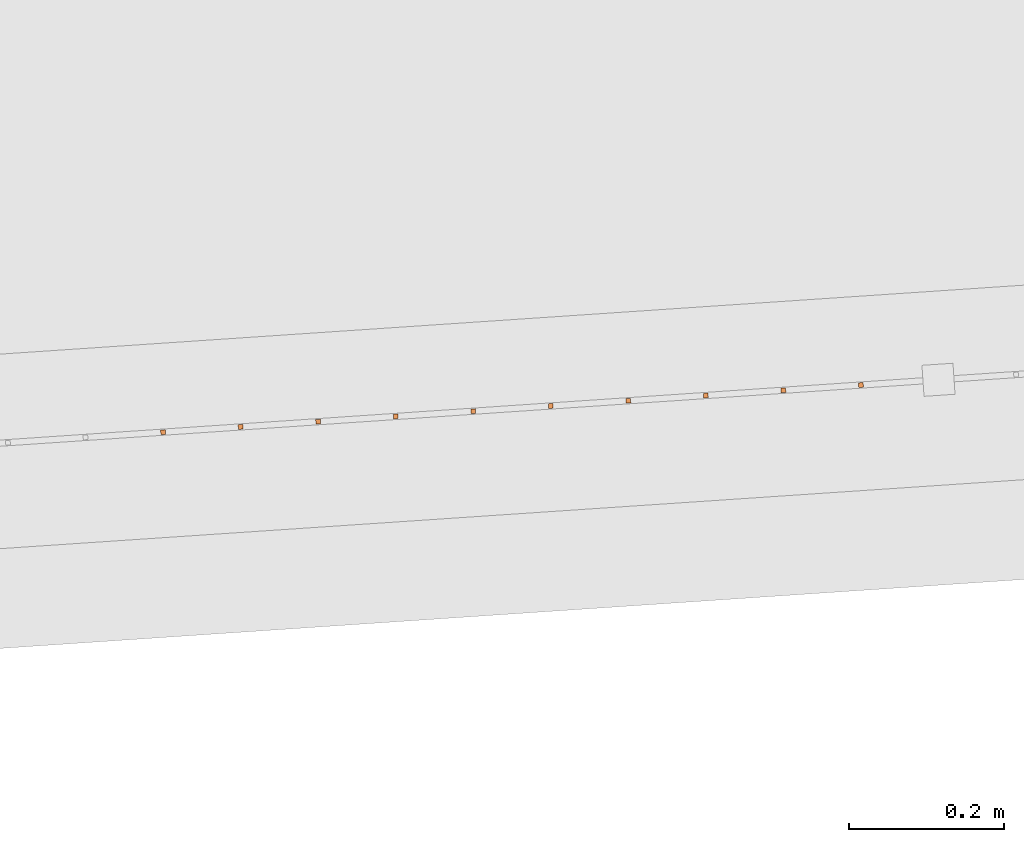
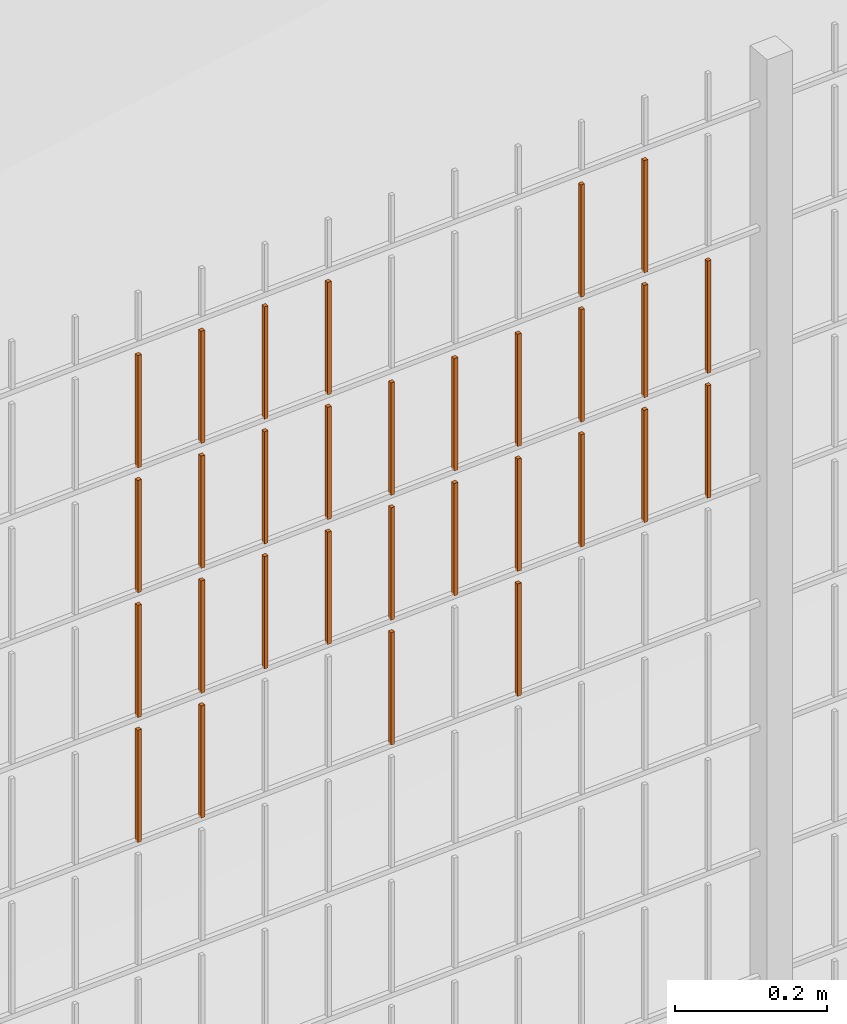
# One storey, part 139 of 1809: 30 proxies, 1 element without a shape of its own.
"""IFC2X3 building model written with IfcOpenShell, lengths in millimetres."""

from ifc_helpers import new_model, entity, si_unit, converted_unit, derived_unit, money_unit, direction, frame, origin_with_axes, place, context, subcontext, project, spatial, faceted_brep, source, transform, mapped, material, type_object, element, aggregate, save


model = new_model("IFC2X3")

# Units and contexts
model_context = context("Model", 3, precision=0.01, world=origin_with_axes(), true_north=direction((0.0, 1.0)))
body_context = subcontext(model_context, "Body", "Model", "MODEL_VIEW")
ifc_project = project(units=[si_unit("LENGTHUNIT", "METRE", prefix="MILLI"), si_unit("AREAUNIT", "SQUARE_METRE"), si_unit("VOLUMEUNIT", "CUBIC_METRE"), converted_unit("PLANEANGLEUNIT", "DEGREE", entity("IfcPlaneAngleMeasure", 0.0174532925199), si_unit("PLANEANGLEUNIT", "RADIAN"), dimensions=[0, 0, 0, 0, 0, 0, 0]), si_unit("SOLIDANGLEUNIT", "STERADIAN"), money_unit("EUR"), converted_unit("TIMEUNIT", "Year", entity("IfcTimeMeasure", 31556926.0), si_unit("TIMEUNIT", "SECOND"), dimensions=[0, 0, 1, 0, 0, 0, 0]), si_unit("MASSUNIT", "GRAM", prefix="KILO"), si_unit("THERMODYNAMICTEMPERATUREUNIT", "DEGREE_CELSIUS"), si_unit("LUMINOUSINTENSITYUNIT", "LUMEN"), si_unit("ENERGYUNIT", "JOULE", prefix="MEGA"), derived_unit("THERMALCONDUCTANCEUNIT", [(si_unit("POWERUNIT", "WATT"), 1), (si_unit("LENGTHUNIT", "METRE"), -1), (si_unit("THERMODYNAMICTEMPERATUREUNIT", "KELVIN"), -1)]), derived_unit("SPECIFICHEATCAPACITYUNIT", [(si_unit("ENERGYUNIT", "JOULE"), 1), (si_unit("MASSUNIT", "GRAM", prefix="KILO"), -1), (si_unit("THERMODYNAMICTEMPERATUREUNIT", "KELVIN"), -1)]), derived_unit("MASSDENSITYUNIT", [(si_unit("MASSUNIT", "GRAM", prefix="KILO"), 1), (si_unit("VOLUMEUNIT", "CUBIC_METRE"), -1)])], contexts=[model_context])

# Site, building, storey
site_placement = place(None, origin_with_axes())
site = spatial("IfcSite", under=ifc_project, at=site_placement, Name="Politse- ja Piirivalveameti ning Päästeameti ühishoone", CompositionType="ELEMENT")
building_placement = place(site_placement, origin_with_axes())
building = spatial("IfcBuilding", under=site, at=building_placement, Name="Politse- ja Piirivalveameti ning Päästeameti ühishoone", CompositionType="ELEMENT")
storey_placement = place(building_placement, origin_with_axes())
storey = spatial("IfcBuildingStorey", under=building, at=storey_placement, Name="Esimene korrus", CompositionType="ELEMENT", Elevation=0.0)

# Proxies
building_element_proxy_type_1 = type_object("IfcBuildingElementProxyType", Name="Railing Type", PredefinedType="NOTDEFINED")
proxy_1_placement = place(storey_placement, frame((89252.001212, -29183.4766571, 203.661247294), z_axis=(0.0, 0.0, 1.0), x_axis=(1.0, 0.0, 0.0)))
proxy_1 = element("IfcBuildingElementProxy", 1, at=proxy_1_placement, inside=storey, type_object=building_element_proxy_type_1, Name="PIIRDEAED")
ifc_material = material(Name="ET-03_Raud")
building_element_proxy_type_2 = type_object("IfcBuildingElementProxyType", Name="IfcBuildingElementProxy", PredefinedType="NOTDEFINED")
shared_shape_1 = source(origin_with_axes(), body_context, "Body", "Brep", [
    faceted_brep([(3.0, 3.0, -0.000752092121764), (-3.0, 3.0, -0.000752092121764), (-3.0, 3.0, 179.99926046), (3.0, 3.0, 179.99926046), (3.0, -3.0, 0.000752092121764), (-3.0, -3.0, 0.000752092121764), (-3.0, -3.0, 180.000764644), (3.0, -3.0, 180.000764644)], [[[0, 1, 2, 3]], [[0, 4, 5, 1]], [[1, 5, 6, 2]], [[3, 2, 6, 7]], [[4, 0, 3, 7]], [[5, 4, 7, 6]]]),
])
proxy_2_placement = place(proxy_1_placement, frame((-88125.8799148, -23250.3453748, 1205.09111679), z_axis=(0.0, 0.0, 1.0), x_axis=(1.0, 0.0, 0.0)))
proxy_2 = element("IfcBuildingElementProxy", 2, at=proxy_2_placement, type_object=building_element_proxy_type_2, material=ifc_material, Name="BALUSTER - 001", context=body_context, shape_type="MappedRepresentation", body=[
    mapped(shared_shape_1, transform((0.0, 0.0, 0.0), x_axis=(-0.0673926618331, 0.997726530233, 0.0), y_axis=(-0.997726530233, -0.0673926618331, 0.0), z_axis=(0.0, 0.0, 1.0))),
])
shared_shape_2 = source(origin_with_axes(), body_context, "Body", "Brep", [
    faceted_brep([(3.0, 3.0, -0.000752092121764), (-3.0, 3.0, -0.000752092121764), (-3.0, 3.0, 179.99926046), (3.0, 3.0, 179.99926046), (3.0, -3.0, 0.000752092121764), (-3.0, -3.0, 0.000752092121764), (-3.0, -3.0, 180.000764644), (3.0, -3.0, 180.000764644)], [[[0, 1, 2, 3]], [[0, 4, 5, 1]], [[1, 5, 6, 2]], [[3, 2, 6, 7]], [[4, 0, 3, 7]], [[5, 4, 7, 6]]]),
])
proxy_3_placement = place(proxy_1_placement, frame((-87826.5619557, -23230.1275762, 1805.166326), z_axis=(0.0, 0.0, 1.0), x_axis=(1.0, 0.0, 0.0)))
proxy_3 = element("IfcBuildingElementProxy", 3, at=proxy_3_placement, type_object=building_element_proxy_type_2, material=ifc_material, Name="BALUSTER - 001", context=body_context, shape_type="MappedRepresentation", body=[
    mapped(shared_shape_2, transform((0.0, 0.0, 0.0), x_axis=(-0.0673926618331, 0.997726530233, 0.0), y_axis=(-0.997726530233, -0.0673926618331, 0.0), z_axis=(0.0, 0.0, 1.0))),
])
proxy_4_placement = place(proxy_1_placement, frame((-88125.8799148, -23250.3453748, 1805.09111679), z_axis=(0.0, 0.0, 1.0), x_axis=(1.0, 0.0, 0.0)))
proxy_4 = element("IfcBuildingElementProxy", 4, at=proxy_4_placement, type_object=building_element_proxy_type_2, material=ifc_material, Name="BALUSTER - 001", context=body_context, shape_type="MappedRepresentation", body=[
    mapped(shared_shape_2, transform((0.0, 0.0, 0.0), x_axis=(-0.0673926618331, 0.997726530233, 0.0), y_axis=(-0.997726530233, -0.0673926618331, 0.0), z_axis=(0.0, 0.0, 1.0))),
])
shared_shape_3 = source(origin_with_axes(), body_context, "Body", "Brep", [
    faceted_brep([(3.0, 3.0, -0.000752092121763), (-3.0, 3.0, -0.000752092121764), (-3.0, 3.0, 179.99926046), (3.0, 3.0, 179.99926046), (3.0, -3.0, 0.000752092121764), (-3.0, -3.0, 0.000752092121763), (-3.0, -3.0, 180.000764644), (3.0, -3.0, 180.000764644)], [[[0, 1, 2, 3]], [[0, 4, 5, 1]], [[1, 5, 6, 2]], [[3, 2, 6, 7]], [[4, 0, 3, 7]], [[5, 4, 7, 6]]]),
])
proxy_5_placement = place(proxy_1_placement, frame((-87327.6986906, -23196.4312453, 1805.29167469), z_axis=(0.0, 0.0, 1.0), x_axis=(1.0, 0.0, 0.0)))
proxy_5 = element("IfcBuildingElementProxy", 5, at=proxy_5_placement, type_object=building_element_proxy_type_2, material=ifc_material, Name="BALUSTER - 001", context=body_context, shape_type="MappedRepresentation", body=[
    mapped(shared_shape_3, transform((0.0, 0.0, 0.0), x_axis=(-0.0673926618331, 0.997726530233, 0.0), y_axis=(-0.997726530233, -0.0673926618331, 0.0), z_axis=(0.0, 0.0, 1.0))),
])
shared_shape_4 = source(origin_with_axes(), body_context, "Body", "Brep", [
    faceted_brep([(3.0, 3.0, -0.000752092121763), (-3.0, 3.0, -0.000752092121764), (-3.0, 3.0, 179.99926046), (3.0, 3.0, 179.99926046), (3.0, -3.0, 0.000752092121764), (-3.0, -3.0, 0.000752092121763), (-3.0, -3.0, 180.000764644), (3.0, -3.0, 180.000764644)], [[[0, 1, 2, 3]], [[0, 4, 5, 1]], [[1, 5, 6, 2]], [[3, 2, 6, 7]], [[4, 0, 3, 7]], [[5, 4, 7, 6]]]),
])
proxy_6_placement = place(proxy_1_placement, frame((-87327.6986906, -23196.4312453, 1405.29167469), z_axis=(0.0, 0.0, 1.0), x_axis=(1.0, 0.0, 0.0)))
proxy_6 = element("IfcBuildingElementProxy", 6, at=proxy_6_placement, type_object=building_element_proxy_type_2, material=ifc_material, Name="BALUSTER - 001", context=body_context, shape_type="MappedRepresentation", body=[
    mapped(shared_shape_4, transform((0.0, 0.0, 0.0), x_axis=(-0.0673926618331, 0.997726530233, 0.0), y_axis=(-0.997726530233, -0.0673926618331, 0.0), z_axis=(0.0, 0.0, 1.0))),
])
proxy_7_placement = place(proxy_1_placement, frame((-87327.6986906, -23196.4312453, 1605.29167469), z_axis=(0.0, 0.0, 1.0), x_axis=(1.0, 0.0, 0.0)))
proxy_7 = element("IfcBuildingElementProxy", 7, at=proxy_7_placement, type_object=building_element_proxy_type_2, material=ifc_material, Name="BALUSTER - 001", context=body_context, shape_type="MappedRepresentation", body=[
    mapped(shared_shape_4, transform((0.0, 0.0, 0.0), x_axis=(-0.0673926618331, 0.997726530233, 0.0), y_axis=(-0.997726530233, -0.0673926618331, 0.0), z_axis=(0.0, 0.0, 1.0))),
])
shared_shape_5 = source(origin_with_axes(), body_context, "Body", "Brep", [
    faceted_brep([(3.0, 3.0, -0.000752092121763), (-3.0, 3.0, -0.000752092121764), (-3.0, 3.0, 179.99926046), (3.0, 3.0, 179.99926046), (3.0, -3.0, 0.000752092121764), (-3.0, -3.0, 0.000752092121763), (-3.0, -3.0, 180.000764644), (3.0, -3.0, 180.000764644)], [[[0, 1, 2, 3]], [[0, 4, 5, 1]], [[1, 5, 6, 2]], [[3, 2, 6, 7]], [[4, 0, 3, 7]], [[5, 4, 7, 6]]]),
])
proxy_8_placement = place(proxy_1_placement, frame((-87227.9260376, -23189.6919791, 1405.31674443), z_axis=(0.0, 0.0, 1.0), x_axis=(1.0, 0.0, 0.0)))
proxy_8 = element("IfcBuildingElementProxy", 8, at=proxy_8_placement, type_object=building_element_proxy_type_2, material=ifc_material, Name="BALUSTER - 001", context=body_context, shape_type="MappedRepresentation", body=[
    mapped(shared_shape_5, transform((0.0, 0.0, 0.0), x_axis=(-0.0673926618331, 0.997726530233, 0.0), y_axis=(-0.997726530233, -0.0673926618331, 0.0), z_axis=(0.0, 0.0, 1.0))),
])
proxy_9_placement = place(proxy_1_placement, frame((-87227.9260376, -23189.6919791, 1605.31674443), z_axis=(0.0, 0.0, 1.0), x_axis=(1.0, 0.0, 0.0)))
proxy_9 = element("IfcBuildingElementProxy", 9, at=proxy_9_placement, type_object=building_element_proxy_type_2, material=ifc_material, Name="BALUSTER - 001", context=body_context, shape_type="MappedRepresentation", body=[
    mapped(shared_shape_5, transform((0.0, 0.0, 0.0), x_axis=(-0.0673926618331, 0.997726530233, 0.0), y_axis=(-0.997726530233, -0.0673926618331, 0.0), z_axis=(0.0, 0.0, 1.0))),
])
shared_shape_6 = source(origin_with_axes(), body_context, "Body", "Brep", [
    faceted_brep([(3.0, 3.0, -0.000752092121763), (-3.0, 3.0, -0.000752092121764), (-3.0, 3.0, 179.99926046), (3.0, 3.0, 179.99926046), (3.0, -3.0, 0.000752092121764), (-3.0, -3.0, 0.000752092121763), (-3.0, -3.0, 180.000764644), (3.0, -3.0, 180.000764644)], [[[0, 1, 2, 3]], [[0, 4, 5, 1]], [[1, 5, 6, 2]], [[3, 2, 6, 7]], [[4, 0, 3, 7]], [[5, 4, 7, 6]]]),
])
proxy_10_placement = place(proxy_1_placement, frame((-87427.4713436, -23203.1705115, 1805.26660495), z_axis=(0.0, 0.0, 1.0), x_axis=(1.0, 0.0, 0.0)))
proxy_10 = element("IfcBuildingElementProxy", 10, at=proxy_10_placement, type_object=building_element_proxy_type_2, material=ifc_material, Name="BALUSTER - 001", context=body_context, shape_type="MappedRepresentation", body=[
    mapped(shared_shape_6, transform((0.0, 0.0, 0.0), x_axis=(-0.0673926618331, 0.997726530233, 0.0), y_axis=(-0.997726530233, -0.0673926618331, 0.0), z_axis=(0.0, 0.0, 1.0))),
])
shared_shape_7 = source(origin_with_axes(), body_context, "Body", "Brep", [
    faceted_brep([(3.0, 3.0, -0.000752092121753), (-3.0, 3.0, -0.000752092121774), (-3.0, 3.0, 179.99926046), (3.0, 3.0, 179.99926046), (3.0, -3.0, 0.000752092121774), (-3.0, -3.0, 0.000752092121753), (-3.0, -3.0, 180.000764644), (3.0, -3.0, 180.000764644)], [[[0, 1, 2, 3]], [[0, 4, 5, 1]], [[1, 5, 6, 2]], [[3, 2, 6, 7]], [[4, 0, 3, 7]], [[5, 4, 7, 6]]]),
])
proxy_11_placement = place(proxy_1_placement, frame((-87527.2439966, -23209.9097777, 1205.24153521), z_axis=(0.0, 0.0, 1.0), x_axis=(1.0, 0.0, 0.0)))
proxy_11 = element("IfcBuildingElementProxy", 11, at=proxy_11_placement, type_object=building_element_proxy_type_2, material=ifc_material, Name="BALUSTER - 001", context=body_context, shape_type="MappedRepresentation", body=[
    mapped(shared_shape_7, transform((0.0, 0.0, 0.0), x_axis=(-0.0673926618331, 0.997726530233, 0.0), y_axis=(-0.997726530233, -0.0673926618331, 0.0), z_axis=(0.0, 0.0, 1.0))),
])
shared_shape_8 = source(origin_with_axes(), body_context, "Body", "Brep", [
    faceted_brep([(3.0, 3.0, -0.000752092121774), (-3.0, 3.0, -0.000752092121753), (-3.0, 3.0, 179.99926046), (3.0, 3.0, 179.99926046), (3.0, -3.0, 0.000752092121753), (-3.0, -3.0, 0.000752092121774), (-3.0, -3.0, 180.000764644), (3.0, -3.0, 180.000764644)], [[[0, 1, 2, 3]], [[0, 4, 5, 1]], [[1, 5, 6, 2]], [[3, 2, 6, 7]], [[4, 0, 3, 7]], [[5, 4, 7, 6]]]),
])
proxy_12_placement = place(proxy_1_placement, frame((-87726.7893027, -23223.38831, 1205.19139574), z_axis=(0.0, 0.0, 1.0), x_axis=(1.0, 0.0, 0.0)))
proxy_12 = element("IfcBuildingElementProxy", 12, at=proxy_12_placement, type_object=building_element_proxy_type_2, material=ifc_material, Name="BALUSTER - 001", context=body_context, shape_type="MappedRepresentation", body=[
    mapped(shared_shape_8, transform((0.0, 0.0, 0.0), x_axis=(-0.0673926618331, 0.997726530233, 0.0), y_axis=(-0.997726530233, -0.0673926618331, 0.0), z_axis=(0.0, 0.0, 1.0))),
])
proxy_13_placement = place(proxy_1_placement, frame((-87926.3346087, -23236.8668424, 1805.14125626), z_axis=(0.0, 0.0, 1.0), x_axis=(1.0, 0.0, 0.0)))
proxy_13 = element("IfcBuildingElementProxy", 13, at=proxy_13_placement, type_object=building_element_proxy_type_2, material=ifc_material, Name="BALUSTER - 001", context=body_context, shape_type="MappedRepresentation", body=[
    mapped(shared_shape_8, transform((0.0, 0.0, 0.0), x_axis=(-0.0673926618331, 0.997726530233, 0.0), y_axis=(-0.997726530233, -0.0673926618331, 0.0), z_axis=(0.0, 0.0, 1.0))),
])
shared_shape_9 = source(origin_with_axes(), body_context, "Body", "Brep", [
    faceted_brep([(3.0, 3.0, -0.000752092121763), (-3.0, 3.0, -0.000752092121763), (-3.0, 3.0, 179.99926046), (3.0, 3.0, 179.99926046), (3.0, -3.0, 0.000752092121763), (-3.0, -3.0, 0.000752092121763), (-3.0, -3.0, 180.000764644), (3.0, -3.0, 180.000764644)], [[[0, 1, 2, 3]], [[0, 4, 5, 1]], [[1, 5, 6, 2]], [[3, 2, 6, 7]], [[4, 0, 3, 7]], [[5, 4, 7, 6]]]),
])
proxy_14_placement = place(proxy_1_placement, frame((-88026.1072617, -23243.6061086, 1205.11618653), z_axis=(0.0, 0.0, 1.0), x_axis=(1.0, 0.0, 0.0)))
proxy_14 = element("IfcBuildingElementProxy", 14, at=proxy_14_placement, type_object=building_element_proxy_type_2, material=ifc_material, Name="BALUSTER - 001", context=body_context, shape_type="MappedRepresentation", body=[
    mapped(shared_shape_9, transform((0.0, 0.0, 0.0), x_axis=(-0.0673926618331, 0.997726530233, 0.0), y_axis=(-0.997726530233, -0.0673926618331, 0.0), z_axis=(0.0, 0.0, 1.0))),
])
shared_shape_10 = source(origin_with_axes(), body_context, "Body", "Brep", [
    faceted_brep([(3.0, 3.0, -0.000752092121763), (-3.0, 3.0, -0.000752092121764), (-3.0, 3.0, 179.99926046), (3.0, 3.0, 179.99926046), (3.0, -3.0, 0.000752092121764), (-3.0, -3.0, 0.000752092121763), (-3.0, -3.0, 180.000764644), (3.0, -3.0, 180.000764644)], [[[0, 1, 2, 3]], [[0, 4, 5, 1]], [[1, 5, 6, 2]], [[3, 2, 6, 7]], [[4, 0, 3, 7]], [[5, 4, 7, 6]]]),
])
proxy_15_placement = place(proxy_1_placement, frame((-87427.4713436, -23203.1705115, 1405.26660495), z_axis=(0.0, 0.0, 1.0), x_axis=(1.0, 0.0, 0.0)))
proxy_15 = element("IfcBuildingElementProxy", 15, at=proxy_15_placement, type_object=building_element_proxy_type_2, material=ifc_material, Name="BALUSTER - 001", context=body_context, shape_type="MappedRepresentation", body=[
    mapped(shared_shape_10, transform((0.0, 0.0, 0.0), x_axis=(-0.0673926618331, 0.997726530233, 0.0), y_axis=(-0.997726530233, -0.0673926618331, 0.0), z_axis=(0.0, 0.0, 1.0))),
])
proxy_16_placement = place(proxy_1_placement, frame((-87427.4713436, -23203.1705115, 1605.26660495), z_axis=(0.0, 0.0, 1.0), x_axis=(1.0, 0.0, 0.0)))
proxy_16 = element("IfcBuildingElementProxy", 16, at=proxy_16_placement, type_object=building_element_proxy_type_2, material=ifc_material, Name="BALUSTER - 001", context=body_context, shape_type="MappedRepresentation", body=[
    mapped(shared_shape_10, transform((0.0, 0.0, 0.0), x_axis=(-0.0673926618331, 0.997726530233, 0.0), y_axis=(-0.997726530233, -0.0673926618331, 0.0), z_axis=(0.0, 0.0, 1.0))),
])
shared_shape_11 = source(origin_with_axes(), body_context, "Body", "Brep", [
    faceted_brep([(3.0, 3.0, -0.000752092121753), (-3.0, 3.0, -0.000752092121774), (-3.0, 3.0, 179.99926046), (3.0, 3.0, 179.99926046), (3.0, -3.0, 0.000752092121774), (-3.0, -3.0, 0.000752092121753), (-3.0, -3.0, 180.000764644), (3.0, -3.0, 180.000764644)], [[[0, 1, 2, 3]], [[0, 4, 5, 1]], [[1, 5, 6, 2]], [[3, 2, 6, 7]], [[4, 0, 3, 7]], [[5, 4, 7, 6]]]),
])
proxy_17_placement = place(proxy_1_placement, frame((-87527.2439966, -23209.9097777, 1405.24153521), z_axis=(0.0, 0.0, 1.0), x_axis=(1.0, 0.0, 0.0)))
proxy_17 = element("IfcBuildingElementProxy", 17, at=proxy_17_placement, type_object=building_element_proxy_type_2, material=ifc_material, Name="BALUSTER - 001", context=body_context, shape_type="MappedRepresentation", body=[
    mapped(shared_shape_11, transform((0.0, 0.0, 0.0), x_axis=(-0.0673926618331, 0.997726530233, 0.0), y_axis=(-0.997726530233, -0.0673926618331, 0.0), z_axis=(0.0, 0.0, 1.0))),
])
proxy_18_placement = place(proxy_1_placement, frame((-87527.2439966, -23209.9097777, 1605.24153521), z_axis=(0.0, 0.0, 1.0), x_axis=(1.0, 0.0, 0.0)))
proxy_18 = element("IfcBuildingElementProxy", 18, at=proxy_18_placement, type_object=building_element_proxy_type_2, material=ifc_material, Name="BALUSTER - 001", context=body_context, shape_type="MappedRepresentation", body=[
    mapped(shared_shape_11, transform((0.0, 0.0, 0.0), x_axis=(-0.0673926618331, 0.997726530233, 0.0), y_axis=(-0.997726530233, -0.0673926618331, 0.0), z_axis=(0.0, 0.0, 1.0))),
])
shared_shape_12 = source(origin_with_axes(), body_context, "Body", "Brep", [
    faceted_brep([(3.0, 3.0, -0.000752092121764), (-3.0, 3.0, -0.000752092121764), (-3.0, 3.0, 179.99926046), (3.0, 3.0, 179.99926046), (3.0, -3.0, 0.000752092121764), (-3.0, -3.0, 0.000752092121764), (-3.0, -3.0, 180.000764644), (3.0, -3.0, 180.000764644)], [[[0, 1, 2, 3]], [[0, 4, 5, 1]], [[1, 5, 6, 2]], [[3, 2, 6, 7]], [[4, 0, 3, 7]], [[5, 4, 7, 6]]]),
])
proxy_19_placement = place(proxy_1_placement, frame((-87627.0166497, -23216.6490439, 1405.21646548), z_axis=(0.0, 0.0, 1.0), x_axis=(1.0, 0.0, 0.0)))
proxy_19 = element("IfcBuildingElementProxy", 19, at=proxy_19_placement, type_object=building_element_proxy_type_2, material=ifc_material, Name="BALUSTER - 001", context=body_context, shape_type="MappedRepresentation", body=[
    mapped(shared_shape_12, transform((0.0, 0.0, 0.0), x_axis=(-0.0673926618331, 0.997726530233, 0.0), y_axis=(-0.997726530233, -0.0673926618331, 0.0), z_axis=(0.0, 0.0, 1.0))),
])
proxy_20_placement = place(proxy_1_placement, frame((-87627.0166497, -23216.6490439, 1605.21646548), z_axis=(0.0, 0.0, 1.0), x_axis=(1.0, 0.0, 0.0)))
proxy_20 = element("IfcBuildingElementProxy", 20, at=proxy_20_placement, type_object=building_element_proxy_type_2, material=ifc_material, Name="BALUSTER - 001", context=body_context, shape_type="MappedRepresentation", body=[
    mapped(shared_shape_12, transform((0.0, 0.0, 0.0), x_axis=(-0.0673926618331, 0.997726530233, 0.0), y_axis=(-0.997726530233, -0.0673926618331, 0.0), z_axis=(0.0, 0.0, 1.0))),
])
shared_shape_13 = source(origin_with_axes(), body_context, "Body", "Brep", [
    faceted_brep([(3.0, 3.0, -0.000752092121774), (-3.0, 3.0, -0.000752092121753), (-3.0, 3.0, 179.99926046), (3.0, 3.0, 179.99926046), (3.0, -3.0, 0.000752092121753), (-3.0, -3.0, 0.000752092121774), (-3.0, -3.0, 180.000764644), (3.0, -3.0, 180.000764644)], [[[0, 1, 2, 3]], [[0, 4, 5, 1]], [[1, 5, 6, 2]], [[3, 2, 6, 7]], [[4, 0, 3, 7]], [[5, 4, 7, 6]]]),
])
proxy_21_placement = place(proxy_1_placement, frame((-87726.7893027, -23223.38831, 1405.19139574), z_axis=(0.0, 0.0, 1.0), x_axis=(1.0, 0.0, 0.0)))
proxy_21 = element("IfcBuildingElementProxy", 21, at=proxy_21_placement, type_object=building_element_proxy_type_2, material=ifc_material, Name="BALUSTER - 001", context=body_context, shape_type="MappedRepresentation", body=[
    mapped(shared_shape_13, transform((0.0, 0.0, 0.0), x_axis=(-0.0673926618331, 0.997726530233, 0.0), y_axis=(-0.997726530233, -0.0673926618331, 0.0), z_axis=(0.0, 0.0, 1.0))),
])
proxy_22_placement = place(proxy_1_placement, frame((-87726.7893027, -23223.38831, 1605.19139574), z_axis=(0.0, 0.0, 1.0), x_axis=(1.0, 0.0, 0.0)))
proxy_22 = element("IfcBuildingElementProxy", 22, at=proxy_22_placement, type_object=building_element_proxy_type_2, material=ifc_material, Name="BALUSTER - 001", context=body_context, shape_type="MappedRepresentation", body=[
    mapped(shared_shape_13, transform((0.0, 0.0, 0.0), x_axis=(-0.0673926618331, 0.997726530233, 0.0), y_axis=(-0.997726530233, -0.0673926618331, 0.0), z_axis=(0.0, 0.0, 1.0))),
])
shared_shape_14 = source(origin_with_axes(), body_context, "Body", "Brep", [
    faceted_brep([(3.0, 3.0, -0.000752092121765), (-3.0, 3.0, -0.000752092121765), (-3.0, 3.0, 179.99926046), (3.0, 3.0, 179.99926046), (3.0, -3.0, 0.000752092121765), (-3.0, -3.0, 0.000752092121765), (-3.0, -3.0, 180.000764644), (3.0, -3.0, 180.000764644)], [[[0, 1, 2, 3]], [[0, 4, 5, 1]], [[1, 5, 6, 2]], [[3, 2, 6, 7]], [[4, 0, 3, 7]], [[5, 4, 7, 6]]]),
])
proxy_23_placement = place(proxy_1_placement, frame((-87826.5619557, -23230.1275762, 1405.166326), z_axis=(0.0, 0.0, 1.0), x_axis=(1.0, 0.0, 0.0)))
proxy_23 = element("IfcBuildingElementProxy", 23, at=proxy_23_placement, type_object=building_element_proxy_type_2, material=ifc_material, Name="BALUSTER - 001", context=body_context, shape_type="MappedRepresentation", body=[
    mapped(shared_shape_14, transform((0.0, 0.0, 0.0), x_axis=(-0.0673926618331, 0.997726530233, 0.0), y_axis=(-0.997726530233, -0.0673926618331, 0.0), z_axis=(0.0, 0.0, 1.0))),
])
proxy_24_placement = place(proxy_1_placement, frame((-87826.5619557, -23230.1275762, 1605.166326), z_axis=(0.0, 0.0, 1.0), x_axis=(1.0, 0.0, 0.0)))
proxy_24 = element("IfcBuildingElementProxy", 24, at=proxy_24_placement, type_object=building_element_proxy_type_2, material=ifc_material, Name="BALUSTER - 001", context=body_context, shape_type="MappedRepresentation", body=[
    mapped(shared_shape_14, transform((0.0, 0.0, 0.0), x_axis=(-0.0673926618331, 0.997726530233, 0.0), y_axis=(-0.997726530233, -0.0673926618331, 0.0), z_axis=(0.0, 0.0, 1.0))),
])
shared_shape_15 = source(origin_with_axes(), body_context, "Body", "Brep", [
    faceted_brep([(3.0, 3.0, -0.000752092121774), (-3.0, 3.0, -0.000752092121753), (-3.0, 3.0, 179.99926046), (3.0, 3.0, 179.99926046), (3.0, -3.0, 0.000752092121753), (-3.0, -3.0, 0.000752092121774), (-3.0, -3.0, 180.000764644), (3.0, -3.0, 180.000764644)], [[[0, 1, 2, 3]], [[0, 4, 5, 1]], [[1, 5, 6, 2]], [[3, 2, 6, 7]], [[4, 0, 3, 7]], [[5, 4, 7, 6]]]),
])
proxy_25_placement = place(proxy_1_placement, frame((-87926.3346087, -23236.8668424, 1405.14125626), z_axis=(0.0, 0.0, 1.0), x_axis=(1.0, 0.0, 0.0)))
proxy_25 = element("IfcBuildingElementProxy", 25, at=proxy_25_placement, type_object=building_element_proxy_type_2, material=ifc_material, Name="BALUSTER - 001", context=body_context, shape_type="MappedRepresentation", body=[
    mapped(shared_shape_15, transform((0.0, 0.0, 0.0), x_axis=(-0.0673926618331, 0.997726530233, 0.0), y_axis=(-0.997726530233, -0.0673926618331, 0.0), z_axis=(0.0, 0.0, 1.0))),
])
proxy_26_placement = place(proxy_1_placement, frame((-87926.3346087, -23236.8668424, 1605.14125626), z_axis=(0.0, 0.0, 1.0), x_axis=(1.0, 0.0, 0.0)))
proxy_26 = element("IfcBuildingElementProxy", 26, at=proxy_26_placement, type_object=building_element_proxy_type_2, material=ifc_material, Name="BALUSTER - 001", context=body_context, shape_type="MappedRepresentation", body=[
    mapped(shared_shape_15, transform((0.0, 0.0, 0.0), x_axis=(-0.0673926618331, 0.997726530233, 0.0), y_axis=(-0.997726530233, -0.0673926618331, 0.0), z_axis=(0.0, 0.0, 1.0))),
])
shared_shape_16 = source(origin_with_axes(), body_context, "Body", "Brep", [
    faceted_brep([(3.0, 3.0, -0.000752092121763), (-3.0, 3.0, -0.000752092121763), (-3.0, 3.0, 179.99926046), (3.0, 3.0, 179.99926046), (3.0, -3.0, 0.000752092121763), (-3.0, -3.0, 0.000752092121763), (-3.0, -3.0, 180.000764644), (3.0, -3.0, 180.000764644)], [[[0, 1, 2, 3]], [[0, 4, 5, 1]], [[1, 5, 6, 2]], [[3, 2, 6, 7]], [[4, 0, 3, 7]], [[5, 4, 7, 6]]]),
])
proxy_27_placement = place(proxy_1_placement, frame((-88026.1072617, -23243.6061086, 1405.11618653), z_axis=(0.0, 0.0, 1.0), x_axis=(1.0, 0.0, 0.0)))
proxy_27 = element("IfcBuildingElementProxy", 27, at=proxy_27_placement, type_object=building_element_proxy_type_2, material=ifc_material, Name="BALUSTER - 001", context=body_context, shape_type="MappedRepresentation", body=[
    mapped(shared_shape_16, transform((0.0, 0.0, 0.0), x_axis=(-0.0673926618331, 0.997726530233, 0.0), y_axis=(-0.997726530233, -0.0673926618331, 0.0), z_axis=(0.0, 0.0, 1.0))),
])
proxy_28_placement = place(proxy_1_placement, frame((-88026.1072617, -23243.6061086, 1605.11618653), z_axis=(0.0, 0.0, 1.0), x_axis=(1.0, 0.0, 0.0)))
proxy_28 = element("IfcBuildingElementProxy", 28, at=proxy_28_placement, type_object=building_element_proxy_type_2, material=ifc_material, Name="BALUSTER - 001", context=body_context, shape_type="MappedRepresentation", body=[
    mapped(shared_shape_16, transform((0.0, 0.0, 0.0), x_axis=(-0.0673926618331, 0.997726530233, 0.0), y_axis=(-0.997726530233, -0.0673926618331, 0.0), z_axis=(0.0, 0.0, 1.0))),
])
shared_shape_17 = source(origin_with_axes(), body_context, "Body", "Brep", [
    faceted_brep([(3.0, 3.0, -0.000752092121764), (-3.0, 3.0, -0.000752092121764), (-3.0, 3.0, 179.99926046), (3.0, 3.0, 179.99926046), (3.0, -3.0, 0.000752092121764), (-3.0, -3.0, 0.000752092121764), (-3.0, -3.0, 180.000764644), (3.0, -3.0, 180.000764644)], [[[0, 1, 2, 3]], [[0, 4, 5, 1]], [[1, 5, 6, 2]], [[3, 2, 6, 7]], [[4, 0, 3, 7]], [[5, 4, 7, 6]]]),
])
proxy_29_placement = place(proxy_1_placement, frame((-88125.8799148, -23250.3453748, 1405.09111679), z_axis=(0.0, 0.0, 1.0), x_axis=(1.0, 0.0, 0.0)))
proxy_29 = element("IfcBuildingElementProxy", 29, at=proxy_29_placement, type_object=building_element_proxy_type_2, material=ifc_material, Name="BALUSTER - 001", context=body_context, shape_type="MappedRepresentation", body=[
    mapped(shared_shape_17, transform((0.0, 0.0, 0.0), x_axis=(-0.0673926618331, 0.997726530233, 0.0), y_axis=(-0.997726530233, -0.0673926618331, 0.0), z_axis=(0.0, 0.0, 1.0))),
])
proxy_30_placement = place(proxy_1_placement, frame((-88125.8799148, -23250.3453748, 1605.09111679), z_axis=(0.0, 0.0, 1.0), x_axis=(1.0, 0.0, 0.0)))
proxy_30 = element("IfcBuildingElementProxy", 30, at=proxy_30_placement, type_object=building_element_proxy_type_2, material=ifc_material, Name="BALUSTER - 001", context=body_context, shape_type="MappedRepresentation", body=[
    mapped(shared_shape_17, transform((0.0, 0.0, 0.0), x_axis=(-0.0673926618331, 0.997726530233, 0.0), y_axis=(-0.997726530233, -0.0673926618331, 0.0), z_axis=(0.0, 0.0, 1.0))),
])
shared_shape_18 = source(origin_with_axes(), body_context, "Body", "Brep", [
    faceted_brep([(3.0, 3.0, -0.000752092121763), (-3.0, 3.0, -0.000752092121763), (-3.0, 3.0, 179.99926046), (3.0, 3.0, 179.99926046), (3.0, -3.0, 0.000752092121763), (-3.0, -3.0, 0.000752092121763), (-3.0, -3.0, 180.000764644), (3.0, -3.0, 180.000764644)], [[[0, 1, 2, 3]], [[0, 4, 5, 1]], [[1, 5, 6, 2]], [[3, 2, 6, 7]], [[4, 0, 3, 7]], [[5, 4, 7, 6]]]),
])
proxy_31_placement = place(proxy_1_placement, frame((-88026.1072617, -23243.6061086, 1805.11618653), z_axis=(0.0, 0.0, 1.0), x_axis=(1.0, 0.0, 0.0)))
proxy_31 = element("IfcBuildingElementProxy", 31, at=proxy_31_placement, type_object=building_element_proxy_type_2, material=ifc_material, Name="BALUSTER - 001", context=body_context, shape_type="MappedRepresentation", body=[
    mapped(shared_shape_18, transform((0.0, 0.0, 0.0), x_axis=(-0.0673926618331, 0.997726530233, 0.0), y_axis=(-0.997726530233, -0.0673926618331, 0.0), z_axis=(0.0, 0.0, 1.0))),
])
aggregate(proxy_1, [proxy_11, proxy_12, proxy_14, proxy_2, proxy_8, proxy_6, proxy_15, proxy_17, proxy_19, proxy_21, proxy_23, proxy_25, proxy_27, proxy_29, proxy_9, proxy_7, proxy_16, proxy_18, proxy_20, proxy_22, proxy_24, proxy_26, proxy_28, proxy_30, proxy_5, proxy_10, proxy_3, proxy_13, proxy_31, proxy_4])

save(model, "model.ifc")
